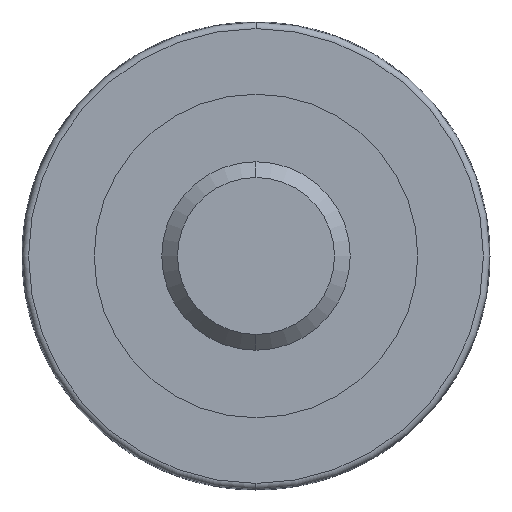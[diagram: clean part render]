
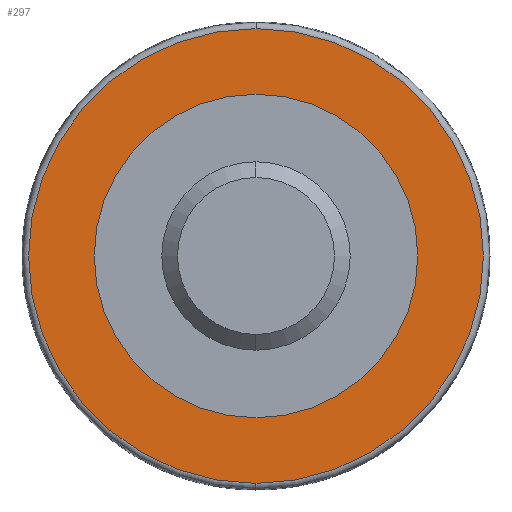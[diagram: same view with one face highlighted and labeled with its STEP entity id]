
A CAD part, left-side view. The second image highlights one B-rep face of the part: STEP entity #297.
In plain terms, the highlighted planar face has unit normal (-1, 0, 0).
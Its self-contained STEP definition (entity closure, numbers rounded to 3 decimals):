
#6 = CARTESIAN_POINT ( 'NONE',  ( -19.31, 0., 0. ) ) ;
#7 = AXIS2_PLACEMENT_3D ( 'NONE', #120, #340, #69 ) ;
#9 = VERTEX_POINT ( 'NONE', #439 ) ;
#18 = EDGE_CURVE ( 'NONE', #82, #9, #336, .T. ) ;
#25 = AXIS2_PLACEMENT_3D ( 'NONE', #515, #180, #27 ) ;
#27 = DIRECTION ( 'NONE',  ( 0., 0., 1. ) ) ;
#40 = VERTEX_POINT ( 'NONE', #260 ) ;
#69 = DIRECTION ( 'NONE',  ( 0., 0., 1. ) ) ;
#73 = DIRECTION ( 'NONE',  ( 0., 0., 1. ) ) ;
#76 = CARTESIAN_POINT ( 'NONE',  ( -19.31, 0., 0. ) ) ;
#77 = AXIS2_PLACEMENT_3D ( 'NONE', #6, #114, #179 ) ;
#82 = VERTEX_POINT ( 'NONE', #279 ) ;
#91 = CARTESIAN_POINT ( 'NONE',  ( -19.31, 0., 51.5 ) ) ;
#107 = VERTEX_POINT ( 'NONE', #91 ) ;
#114 = DIRECTION ( 'NONE',  ( -1., 0., 0. ) ) ;
#120 = CARTESIAN_POINT ( 'NONE',  ( -19.31, 0., 0. ) ) ;
#123 = FACE_BOUND ( 'NONE', #125, .T. ) ;
#125 = EDGE_LOOP ( 'NONE', ( #248, #398 ) ) ;
#176 = DIRECTION ( 'NONE',  ( 0., 0., 1. ) ) ;
#179 = DIRECTION ( 'NONE',  ( 0., 0., 1. ) ) ;
#180 = DIRECTION ( 'NONE',  ( -1., 0., 0. ) ) ;
#186 = AXIS2_PLACEMENT_3D ( 'NONE', #76, #564, #176 ) ;
#205 = CIRCLE ( 'NONE', #25, 51.5 ) ;
#219 = AXIS2_PLACEMENT_3D ( 'NONE', #480, #435, #73 ) ;
#221 = ORIENTED_EDGE ( 'NONE', *, *, #18, .T. ) ;
#223 = EDGE_CURVE ( 'NONE', #40, #107, #314, .T. ) ;
#248 = ORIENTED_EDGE ( 'NONE', *, *, #277, .F. ) ;
#251 = CIRCLE ( 'NONE', #219, 72.4 ) ;
#260 = CARTESIAN_POINT ( 'NONE',  ( -19.31, 0., -51.5 ) ) ;
#277 = EDGE_CURVE ( 'NONE', #107, #40, #205, .T. ) ;
#279 = CARTESIAN_POINT ( 'NONE',  ( -19.31, 0., -72.4 ) ) ;
#297 = ADVANCED_FACE ( 'NONE', ( #364, #123 ), #482, .T. ) ;
#314 = CIRCLE ( 'NONE', #7, 51.5 ) ;
#318 = ORIENTED_EDGE ( 'NONE', *, *, #328, .T. ) ;
#328 = EDGE_CURVE ( 'NONE', #9, #82, #251, .T. ) ;
#336 = CIRCLE ( 'NONE', #77, 72.4 ) ;
#340 = DIRECTION ( 'NONE',  ( -1., 0., 0. ) ) ;
#364 = FACE_OUTER_BOUND ( 'NONE', #464, .T. ) ;
#398 = ORIENTED_EDGE ( 'NONE', *, *, #223, .F. ) ;
#435 = DIRECTION ( 'NONE',  ( -1., 0., 0. ) ) ;
#439 = CARTESIAN_POINT ( 'NONE',  ( -19.31, 0., 72.4 ) ) ;
#464 = EDGE_LOOP ( 'NONE', ( #318, #221 ) ) ;
#480 = CARTESIAN_POINT ( 'NONE',  ( -19.31, 0., 0. ) ) ;
#482 = PLANE ( 'NONE',  #186 ) ;
#515 = CARTESIAN_POINT ( 'NONE',  ( -19.31, 0., 0. ) ) ;
#564 = DIRECTION ( 'NONE',  ( -1., 0., 0. ) ) ;
